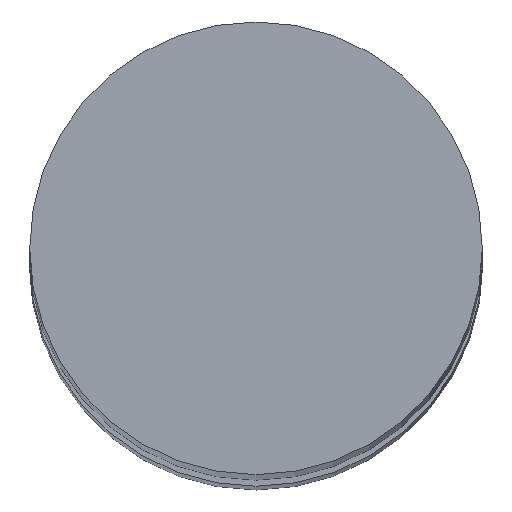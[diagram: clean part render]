
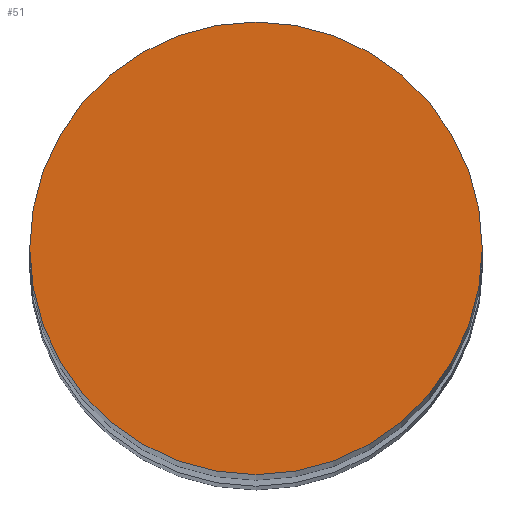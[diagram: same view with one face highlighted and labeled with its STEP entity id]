
A CAD part, top view. The second image highlights one B-rep face of the part: STEP entity #51.
In plain terms, the highlighted planar face has unit normal (0, 0, 1).
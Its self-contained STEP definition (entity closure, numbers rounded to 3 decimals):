
#51=ADVANCED_FACE('',(#98),#99,.T.);
#98=FACE_OUTER_BOUND('',#138,.T.);
#99=PLANE('',#139);
#138=EDGE_LOOP('',(#209,#210));
#139=AXIS2_PLACEMENT_3D('',#211,#212,#213);
#209=ORIENTED_EDGE('',*,*,#248,.T.);
#210=ORIENTED_EDGE('',*,*,#225,.T.);
#211=CARTESIAN_POINT('',(0.0,0.0,0.0));
#212=DIRECTION('',(0.0,0.0,1.0));
#213=DIRECTION('',(1.0,0.0,0.0));
#225=EDGE_CURVE('',#256,#253,#257,.T.);
#248=EDGE_CURVE('',#253,#256,#289,.T.);
#253=VERTEX_POINT('',#294);
#256=VERTEX_POINT('',#298);
#257=CIRCLE('',#299,2.0);
#289=CIRCLE('',#336,2.0);
#294=CARTESIAN_POINT('',(-2.0,0.0,0.0));
#298=CARTESIAN_POINT('',(2.0,0.,0.0));
#299=AXIS2_PLACEMENT_3D('',#341,#342,#343);
#336=AXIS2_PLACEMENT_3D('',#379,#380,#381);
#341=CARTESIAN_POINT('',(0.0,0.0,0.0));
#342=DIRECTION('',(0.0,0.0,1.0));
#343=DIRECTION('',(-1.0,0.0,0.0));
#379=CARTESIAN_POINT('',(0.0,0.0,0.0));
#380=DIRECTION('',(0.0,0.0,1.0));
#381=DIRECTION('',(-1.0,0.0,0.0));
